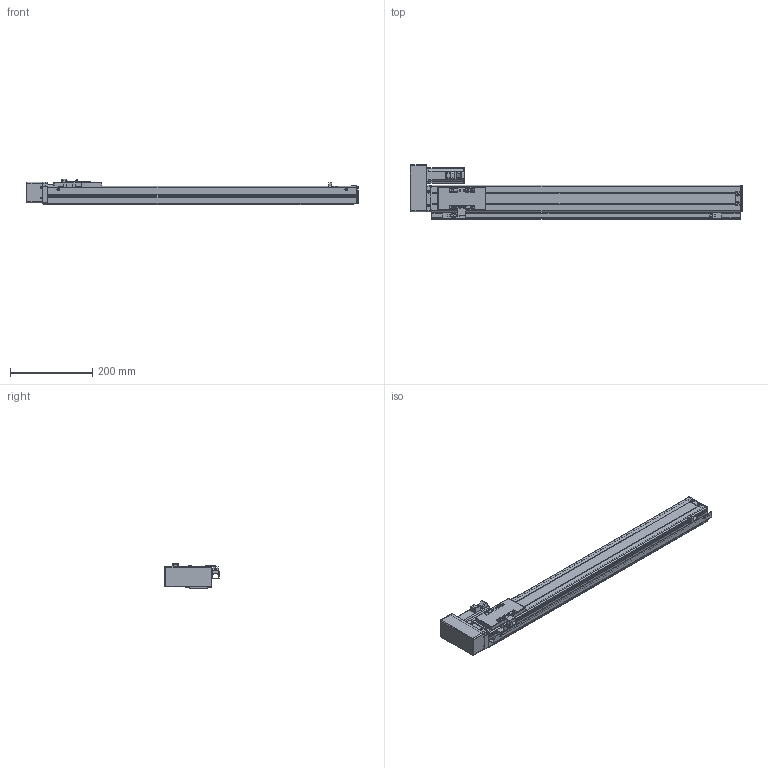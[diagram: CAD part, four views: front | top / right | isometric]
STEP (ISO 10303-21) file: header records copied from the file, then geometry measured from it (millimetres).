
FILE_DESCRIPTION (( 'STEP AP203' ), '1' );
FILE_NAME ('VT6-L10-C-S600-BR-P10-D4.STEP', '2015-10-26T06:18:05', ( '' ), ( '' ), 'SwSTEP 2.0', 'SolidWorks 2013', '' );
FILE_SCHEMA (( 'CONFIG_CONTROL_DESIGN' ));
Length unit declared in the file: millimetre
Products named in the file (17): T6-賑雄殤; EE-XS674; ET6-BC癹弇羲壽羞_600; T6-揤輸; T6-覜茼え; ET6-BLRM絳寢_俴最600; ET6-BLRM滅鳥湍_600; T6-BRL萇儂假蚾啣; T6-裔啣; ET6-BC耜啣_600; T6-綴傷裔; VT6-L10-C-S600-BR-P10-D4; ET6-BLRM佪裝_600; T6-BMLRヶ傷裔; T6-BMRL肮祭湍謫欶; 侂狟100W MSMD012G1U; T6-BMRLヶ傷裔揤啣
Assembly tree (19 placements, depth 2):
  VT6-L10-C-S600-BR-P10-D4
    ET6-BC耜啣_600  x2
    T6-賑雄殤
    T6-裔啣
    T6-揤輸
    T6-綴傷裔
    ET6-BLRM絳寢_俴最600
    ET6-BLRM滅鳥湍_600
    ET6-BLRM佪裝_600
    T6-BMLRヶ傷裔
    T6-BMRLヶ傷裔揤啣
    T6-BMRL肮祭湍謫欶
    侂狟100W MSMD012G1U
    T6-BRL萇儂假蚾啣
    T6-覜茼え
    ET6-BC癹弇羲壽羞_600
    EE-XS674  x3
Bounding box: 807 x 133 x 61 mm (x, y, z)
Volume: 947225.7 mm3; surface area: 606603.3 mm2
Topology: 19 solids, 19 shells, 917 faces, 2436 edges, 1544 vertices
Faces by surface type: cylinder 443, plane 374, cone 46, torus 36, sphere 18
Entity records: 28433 total; most frequent: CARTESIAN_POINT 4777, DIRECTION 4770, ORIENTED_EDGE 4390, EDGE_CURVE 2195, AXIS2_PLACEMENT_3D 1757, VERTEX_POINT 1404, VECTOR 1256, LINE 1256
